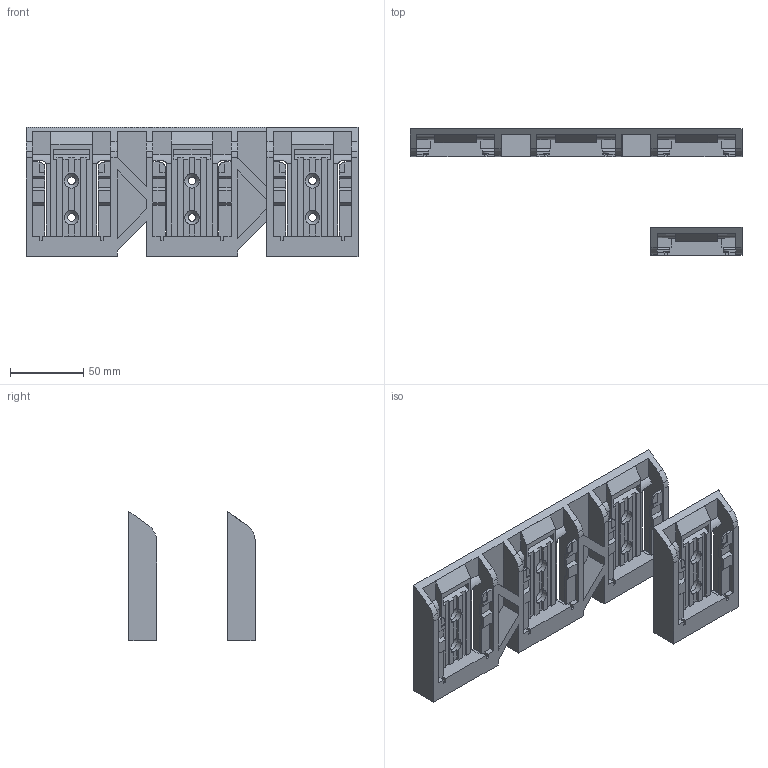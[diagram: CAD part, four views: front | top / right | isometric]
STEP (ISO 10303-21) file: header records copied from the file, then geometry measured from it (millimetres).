
FILE_DESCRIPTION(/* description */ (''),/* implementation_level */ '2;1');
FILE_NAME(/* name */ 'batteryholder-single.step',/* time_stamp */ '2023-08-28T21:15:56+01:00',/* author */ (''),/* organization */ (''),/* preprocessor_version */ 'ST-DEVELOPER v20',/* originating_system */ 'Autodesk Translation Framework v12.9.0.99',/* authorisation */ '');
FILE_SCHEMA (('AUTOMOTIVE_DESIGN { 1 0 10303 214 3 1 1 }'));
Length unit declared in the file: millimetre
Products named in the file (1): batteryholder
Bounding box: 226 x 86 x 88.08 mm (x, y, z)
Volume: 215234.9 mm3; surface area: 91162.7 mm2
Topology: 2 solids, 2 shells, 439 faces, 1323 edges, 874 vertices
Faces by surface type: plane 375, cylinder 56, cone 8
Full cylindrical faces by diameter (mm): 5.2 x8, 10 x8
Entity records: 14786 total; most frequent: CARTESIAN_POINT 2693, ORIENTED_EDGE 2646, DIRECTION 2340, EDGE_CURVE 1323, LINE 1170, VECTOR 1170, VERTEX_POINT 874, AXIS2_PLACEMENT_3D 585
